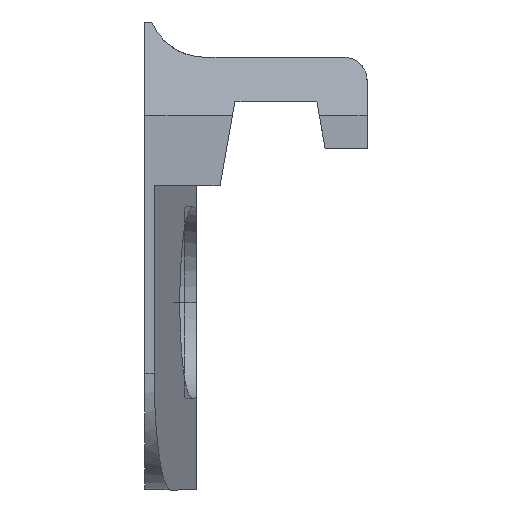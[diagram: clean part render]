
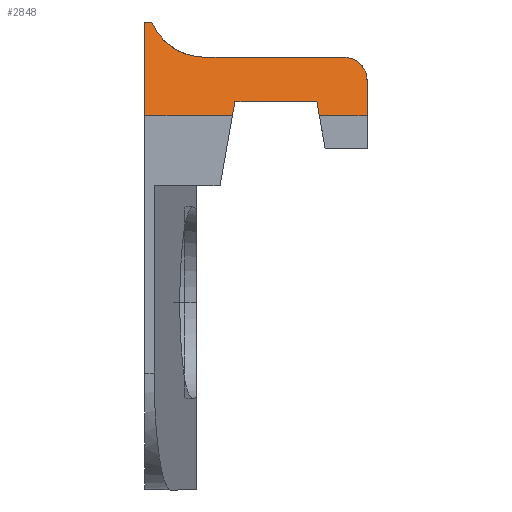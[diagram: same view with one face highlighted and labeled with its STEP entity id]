
A CAD part, front view. The second image highlights one B-rep face of the part: STEP entity #2848.
In plain terms, the highlighted planar face has unit normal (0, -0.574, 0.819).
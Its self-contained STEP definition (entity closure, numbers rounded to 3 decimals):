
#8 = EDGE_CURVE ( 'NONE', #3244, #3219, #2643, .T. ) ;
#12 = EDGE_CURVE ( 'NONE', #3221, #3230, #2655, .T. ) ;
#22 = EDGE_CURVE ( 'NONE', #3219, #3221, #2668, .T. ) ;
#36 = EDGE_CURVE ( 'NONE', #3228, #3240, #2684, .T. ) ;
#38 = EDGE_CURVE ( 'NONE', #3234, #3236, #1408, .T. ) ;
#41 = EDGE_CURVE ( 'NONE', #3236, #3227, #2687, .T. ) ;
#55 = EDGE_CURVE ( 'NONE', #3240, #3242, #2707, .T. ) ;
#58 = EDGE_CURVE ( 'NONE', #3230, #3232, #1409, .T. ) ;
#82 = EDGE_CURVE ( 'NONE', #3242, #3244, #2745, .T. ) ;
#87 = EDGE_CURVE ( 'NONE', #3232, #3234, #2739, .T. ) ;
#90 = EDGE_CURVE ( 'NONE', #3227, #3228, #2742, .T. ) ;
#323 = FACE_OUTER_BOUND ( 'NONE', #2597, .T. ) ;
#1091 = CARTESIAN_POINT ( 'NONE',  ( 8.5, -31.5, 8. ) ) ;
#1092 = PLANE ( 'NONE',  #2906 ) ;
#1094 = DIRECTION ( 'NONE',  ( 0., 0.574, -0.819 ) ) ;
#1095 = DIRECTION ( 'NONE',  ( 0., 0.819, 0.574 ) ) ;
#1326 = CARTESIAN_POINT ( 'NONE',  ( 0., -31.5, 8. ) ) ;
#1328 = CARTESIAN_POINT ( 'NONE',  ( 0., -25.787, 12. ) ) ;
#1334 = CARTESIAN_POINT ( 'NONE',  ( 9.5, -31.5, 8. ) ) ;
#1335 = CARTESIAN_POINT ( 'NONE',  ( 7.456, -31.5, 8. ) ) ;
#1337 = CARTESIAN_POINT ( 'NONE',  ( 0.3, -25.787, 12. ) ) ;
#1339 = CARTESIAN_POINT ( 'NONE',  ( 2.525, -27.93, 10.5 ) ) ;
#1341 = CARTESIAN_POINT ( 'NONE',  ( 8.5, -27.93, 10.5 ) ) ;
#1343 = CARTESIAN_POINT ( 'NONE',  ( 9.5, -29.358, 9.5 ) ) ;
#1347 = CARTESIAN_POINT ( 'NONE',  ( 7.35, -30.643, 8.6 ) ) ;
#1349 = CARTESIAN_POINT ( 'NONE',  ( 3.85, -30.643, 8.6 ) ) ;
#1351 = CARTESIAN_POINT ( 'NONE',  ( 3.744, -31.5, 8. ) ) ;
#1408 =( BOUNDED_CURVE ( )  B_SPLINE_CURVE ( 3, ( #3338, #3342, #3343, #3344 ),
 .UNSPECIFIED., .F., .T. ) 
 B_SPLINE_CURVE_WITH_KNOTS ( ( 4, 4 ),
 ( 3.142, 4.712 ),
 .UNSPECIFIED. ) 
 CURVE ( )  GEOMETRIC_REPRESENTATION_ITEM ( )  RATIONAL_B_SPLINE_CURVE ( ( 1., 0.805, 0.805, 1. ) ) 
 REPRESENTATION_ITEM ( '' )  );
#1409 =( BOUNDED_CURVE ( )  B_SPLINE_CURVE ( 3, ( #3348, #3397, #3398, #3399 ),
 .UNSPECIFIED., .F., .T. ) 
 B_SPLINE_CURVE_WITH_KNOTS ( ( 4, 4 ),
 ( 5.097, 6.283 ),
 .UNSPECIFIED. ) 
 CURVE ( )  GEOMETRIC_REPRESENTATION_ITEM ( )  RATIONAL_B_SPLINE_CURVE ( ( 1., 0.886, 0.886, 1. ) ) 
 REPRESENTATION_ITEM ( '' )  );
#2044 = ORIENTED_EDGE ( 'NONE', *, *, #87, .F. ) ;
#2045 = ORIENTED_EDGE ( 'NONE', *, *, #38, .F. ) ;
#2046 = ORIENTED_EDGE ( 'NONE', *, *, #41, .F. ) ;
#2047 = ORIENTED_EDGE ( 'NONE', *, *, #90, .F. ) ;
#2048 = ORIENTED_EDGE ( 'NONE', *, *, #36, .F. ) ;
#2049 = ORIENTED_EDGE ( 'NONE', *, *, #55, .F. ) ;
#2050 = ORIENTED_EDGE ( 'NONE', *, *, #82, .F. ) ;
#2051 = ORIENTED_EDGE ( 'NONE', *, *, #8, .F. ) ;
#2052 = ORIENTED_EDGE ( 'NONE', *, *, #22, .F. ) ;
#2053 = ORIENTED_EDGE ( 'NONE', *, *, #12, .F. ) ;
#2054 = ORIENTED_EDGE ( 'NONE', *, *, #58, .F. ) ;
#2597 = EDGE_LOOP ( 'NONE', ( #2054, #2053, #2052, #2051, #2050, #2049, #2048, #2047, #2046, #2045, #2044 ) ) ;
#2643 = LINE ( 'NONE', #3259, #2647 ) ;
#2647 = VECTOR ( 'NONE', #3262, 1000. ) ;
#2650 = VECTOR ( 'NONE', #3297, 1000. ) ;
#2655 = LINE ( 'NONE', #3269, #2656 ) ;
#2656 = VECTOR ( 'NONE', #3270, 1000. ) ;
#2668 = LINE ( 'NONE', #3285, #2650 ) ;
#2684 = LINE ( 'NONE', #3336, #2685 ) ;
#2685 = VECTOR ( 'NONE', #3337, 1000. ) ;
#2687 = LINE ( 'NONE', #3347, #2692 ) ;
#2692 = VECTOR ( 'NONE', #3351, 1000. ) ;
#2697 = VECTOR ( 'NONE', #3390, 1000. ) ;
#2707 = LINE ( 'NONE', #3360, #2697 ) ;
#2739 = LINE ( 'NONE', #3471, #2740 ) ;
#2740 = VECTOR ( 'NONE', #3472, 1000. ) ;
#2742 = LINE ( 'NONE', #3473, #2760 ) ;
#2745 = LINE ( 'NONE', #3461, #2746 ) ;
#2746 = VECTOR ( 'NONE', #3462, 1000. ) ;
#2760 = VECTOR ( 'NONE', #3478, 1000. ) ;
#2848 = ADVANCED_FACE ( 'NONE', ( #323 ), #1092, .F. ) ;
#2906 = AXIS2_PLACEMENT_3D ( 'NONE', #1091, #1094, #1095 ) ;
#3219 = VERTEX_POINT ( 'NONE', #1326 ) ;
#3221 = VERTEX_POINT ( 'NONE', #1328 ) ;
#3227 = VERTEX_POINT ( 'NONE', #1334 ) ;
#3228 = VERTEX_POINT ( 'NONE', #1335 ) ;
#3230 = VERTEX_POINT ( 'NONE', #1337 ) ;
#3232 = VERTEX_POINT ( 'NONE', #1339 ) ;
#3234 = VERTEX_POINT ( 'NONE', #1341 ) ;
#3236 = VERTEX_POINT ( 'NONE', #1343 ) ;
#3240 = VERTEX_POINT ( 'NONE', #1347 ) ;
#3242 = VERTEX_POINT ( 'NONE', #1349 ) ;
#3244 = VERTEX_POINT ( 'NONE', #1351 ) ;
#3259 = CARTESIAN_POINT ( 'NONE',  ( 8.5, -31.5, 8. ) ) ;
#3262 = DIRECTION ( 'NONE',  ( -1., 0., 0. ) ) ;
#3269 = CARTESIAN_POINT ( 'NONE',  ( 0.3, -25.787, 12. ) ) ;
#3270 = DIRECTION ( 'NONE',  ( 1., 0., 0. ) ) ;
#3285 = CARTESIAN_POINT ( 'NONE',  ( 0., 347.487, 273.37 ) ) ;
#3297 = DIRECTION ( 'NONE',  ( 0., 0.819, 0.574 ) ) ;
#3336 = CARTESIAN_POINT ( 'NONE',  ( -38.668, 342.077, 269.582 ) ) ;
#3337 = DIRECTION ( 'NONE',  ( -0.101, 0.815, 0.571 ) ) ;
#3338 = CARTESIAN_POINT ( 'NONE',  ( 8.5, -27.93, 10.5 ) ) ;
#3342 = CARTESIAN_POINT ( 'NONE',  ( 9.086, -27.93, 10.5 ) ) ;
#3343 = CARTESIAN_POINT ( 'NONE',  ( 9.5, -28.521, 10.086 ) ) ;
#3344 = CARTESIAN_POINT ( 'NONE',  ( 9.5, -29.358, 9.5 ) ) ;
#3347 = CARTESIAN_POINT ( 'NONE',  ( 9.5, 344.95, 271.593 ) ) ;
#3348 = CARTESIAN_POINT ( 'NONE',  ( 0.3, -25.787, 12. ) ) ;
#3351 = DIRECTION ( 'NONE',  ( 0., -0.819, -0.574 ) ) ;
#3360 = CARTESIAN_POINT ( 'NONE',  ( 3.85, -30.643, 8.6 ) ) ;
#3390 = DIRECTION ( 'NONE',  ( -1., 0., 0. ) ) ;
#3397 = CARTESIAN_POINT ( 'NONE',  ( 0.679, -27.124, 11.064 ) ) ;
#3398 = CARTESIAN_POINT ( 'NONE',  ( 1.515, -27.93, 10.5 ) ) ;
#3399 = CARTESIAN_POINT ( 'NONE',  ( 2.525, -27.93, 10.5 ) ) ;
#3461 = CARTESIAN_POINT ( 'NONE',  ( 49.655, 340.351, 268.373 ) ) ;
#3462 = DIRECTION ( 'NONE',  ( -0.101, -0.815, -0.571 ) ) ;
#3471 = CARTESIAN_POINT ( 'NONE',  ( 8.5, -27.93, 10.5 ) ) ;
#3472 = DIRECTION ( 'NONE',  ( 1., 0., 0. ) ) ;
#3473 = CARTESIAN_POINT ( 'NONE',  ( 8.5, -31.5, 8. ) ) ;
#3478 = DIRECTION ( 'NONE',  ( -1., 0., 0. ) ) ;
